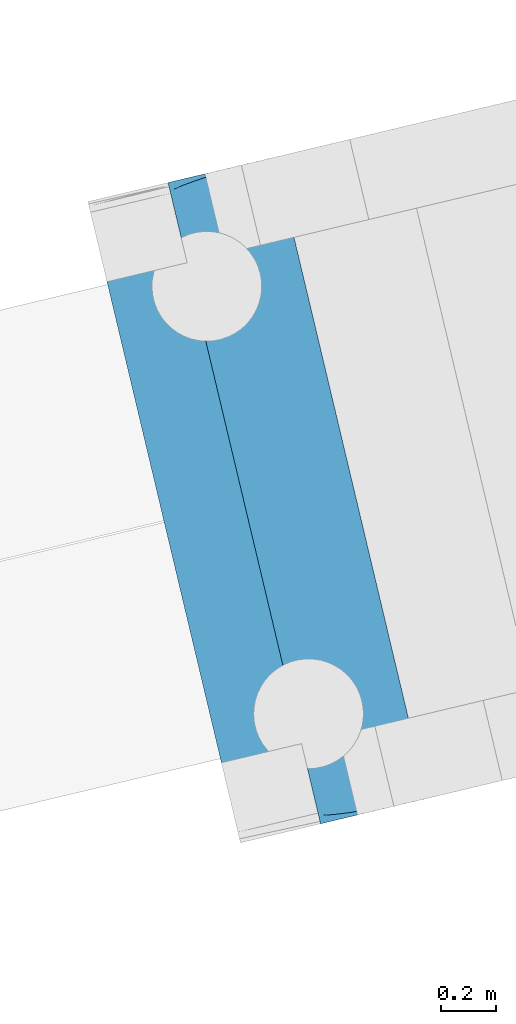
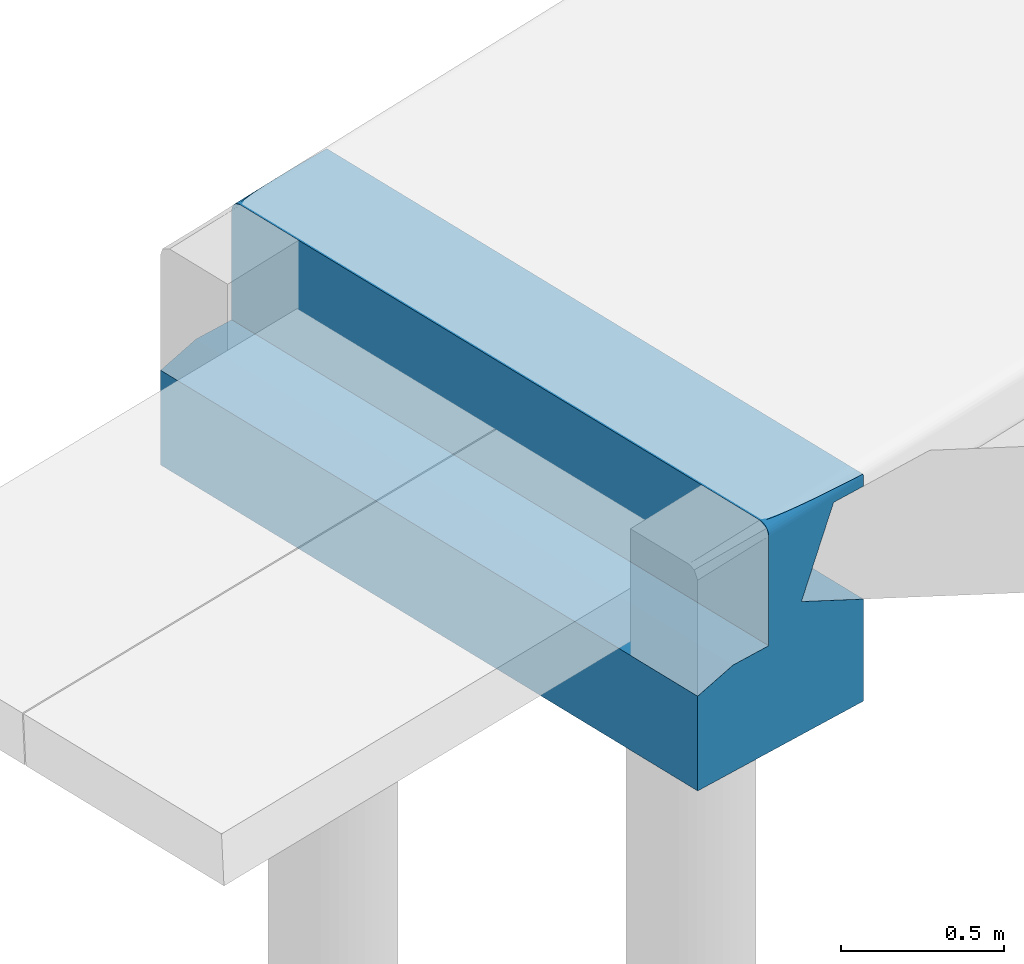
# One storey, part 5 of 15: 1 footing.
"""IFC2X3 building model written with IfcOpenShell, lengths in millimetres."""

from ifc_helpers import new_model, entity, si_unit, converted_unit, derived_unit, direction, frame, origin, place, context, subcontext, project, spatial, faceted_brep, material, element, save


model = new_model("IFC2X3")

# Units and contexts
model_context = context("Model", 3, precision=0.01, world=origin(), true_north=direction((6.12303176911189e-17, 1.0)))
body_context = subcontext(model_context, "Body", "Model", "MODEL_VIEW")
ifc_project = project(units=[si_unit("LENGTHUNIT", "METRE", prefix="MILLI"), si_unit("AREAUNIT", "SQUARE_METRE"), si_unit("VOLUMEUNIT", "CUBIC_METRE"), converted_unit("PLANEANGLEUNIT", "DEGREE", entity("IfcRatioMeasure", 0.0174532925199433), si_unit("PLANEANGLEUNIT", "RADIAN"), dimensions=[0, 0, 0, 0, 0, 0, 0]), si_unit("MASSUNIT", "GRAM", prefix="KILO"), derived_unit("MASSDENSITYUNIT", [(si_unit("MASSUNIT", "GRAM", prefix="KILO"), 1), (si_unit("LENGTHUNIT", "METRE"), -3)]), si_unit("TIMEUNIT", "SECOND"), si_unit("FREQUENCYUNIT", "HERTZ"), si_unit("THERMODYNAMICTEMPERATUREUNIT", "DEGREE_CELSIUS"), derived_unit("THERMALTRANSMITTANCEUNIT", [(si_unit("MASSUNIT", "GRAM", prefix="KILO"), 1), (si_unit("THERMODYNAMICTEMPERATUREUNIT", "KELVIN"), -1), (si_unit("TIMEUNIT", "SECOND"), -3)]), derived_unit("VOLUMETRICFLOWRATEUNIT", [(si_unit("LENGTHUNIT", "METRE"), 3), (si_unit("TIMEUNIT", "SECOND"), -1)]), si_unit("ELECTRICCURRENTUNIT", "AMPERE"), si_unit("ELECTRICVOLTAGEUNIT", "VOLT"), si_unit("POWERUNIT", "WATT"), si_unit("FORCEUNIT", "NEWTON", prefix="KILO"), si_unit("ILLUMINANCEUNIT", "LUX"), si_unit("LUMINOUSFLUXUNIT", "LUMEN"), si_unit("LUMINOUSINTENSITYUNIT", "CANDELA"), derived_unit("USERDEFINED", [(si_unit("MASSUNIT", "GRAM", prefix="KILO"), -1), (si_unit("LENGTHUNIT", "METRE"), -2), (si_unit("TIMEUNIT", "SECOND"), 3), (si_unit("LUMINOUSFLUXUNIT", "LUMEN"), 1)]), derived_unit("LINEARVELOCITYUNIT", [(si_unit("LENGTHUNIT", "METRE"), 1), (si_unit("TIMEUNIT", "SECOND"), -1)]), si_unit("PRESSUREUNIT", "PASCAL"), derived_unit("USERDEFINED", [(si_unit("LENGTHUNIT", "METRE"), -2), (si_unit("MASSUNIT", "GRAM", prefix="KILO"), 1), (si_unit("TIMEUNIT", "SECOND"), -2)])], contexts=[model_context])

# Site, building, storey
site_placement = place(None, origin())
site = spatial("IfcSite", under=ifc_project, at=site_placement, Name="Bruggen Achterburggracht Machinesloot", CompositionType="ELEMENT")
building_placement = place(site_placement, origin())
building = spatial("IfcBuilding", under=site, at=building_placement, Name="Bruggen Achterburggracht Machinesloot", CompositionType="ELEMENT")
storey_placement = place(building_placement, origin())
storey = spatial("IfcBuildingStorey", under=building, at=storey_placement, Name="00 begane grond", CompositionType="ELEMENT", Elevation=2.70716782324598e-13)

# Footing
ifc_material = material(Name="00_PBT_MAT_beton t.p.g.")
footing_placement = place(storey_placement, frame((-36755.207585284, -48669.7979108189, -855.0)))
element("IfcFooting", 1, at=footing_placement, inside=storey, material=ifc_material, Name="319-150_funderingsbalk tpv stootplaat:Brug 3_700x850", ObjectType="319-150_funderingsbalk tpv stootplaat:Brug 3_700x850", PredefinedType="NOTDEFINED", context=body_context, shape_type="Brep", body=[
    faceted_brep([(847.212533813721, 69.4193462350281, 400.0), (701.28365184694, 34.7096731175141, 400.0), (555.354769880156, 0.0, 355.0), (555.354769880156, 0.0, 0.0), (1236.35621905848, 161.978474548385, 0.0), (1236.35621905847, 161.978474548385, 382.414387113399), (981.609700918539, 101.386162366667, 498.999044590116), (1114.18241988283, 132.919027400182, 805.069230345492), (1236.35621905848, 161.978474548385, 805.069230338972), (1236.36587289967, 161.98077074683, 838.412026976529), (1022.05259742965, 111.005640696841, 823.0717664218), (847.212533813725, 69.4193462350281, 810.511909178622), (846.963075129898, 70.4681382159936, 819.758685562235), (846.228103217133, 73.5581595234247, 828.50700781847), (845.047251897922, 78.5227788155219, 836.285291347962), (843.484175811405, 85.0943747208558, 842.674242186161), (842.553654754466, 89.0065376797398, 845.001850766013), (842.088394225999, 90.9626191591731, 846.165655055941), (841.623133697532, 92.9187006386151, 847.329459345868), (841.06989822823, 95.2446526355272, 848.0471194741), (840.793280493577, 96.407628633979, 848.405949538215), (840.516662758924, 97.5706046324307, 848.764779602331), (840.397635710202, 98.0710266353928, 848.91918215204), (840.27860866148, 98.5714486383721, 849.073584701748), (840.159581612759, 99.0718706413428, 849.227987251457), (840.040554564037, 99.5722926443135, 849.382389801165), (839.564446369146, 101.573980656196, 850.0), (299.505866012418, 2372.12676175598, 850.0), (299.029151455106, 2374.13099907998, 849.381603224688), (298.909972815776, 2374.63205841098, 849.22700403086), (298.79079417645, 2375.13311774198, 849.072404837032), (298.67161553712, 2375.63417707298, 848.917805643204), (298.552436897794, 2376.13523640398, 848.763206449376), (298.276122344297, 2377.29693774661, 848.404769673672), (297.9998077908, 2378.45863908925, 848.046332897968), (297.447178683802, 2380.78204177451, 847.329459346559), (296.981918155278, 2382.73812325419, 846.165655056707), (296.516657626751, 2384.69420473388, 845.001850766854), (295.5861365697, 2388.60636769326, 842.674242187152), (294.023060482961, 2395.17796359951, 836.285291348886), (292.842209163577, 2400.14258289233, 828.507007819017), (292.107237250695, 2403.23260420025, 819.758685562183), (291.857763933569, 2404.28145770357, 810.511909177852), (291.857763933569, 2404.28145770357, 400.0), (681.001449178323, 2496.84058601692, 0.0), (0.0, 2334.86211146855, 0.0), (0.0, 2334.86211146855, 355.0), (145.928881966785, 2369.57178458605, 400.0), (466.683613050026, 2445.86437119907, 823.077976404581), (681.001449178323, 2496.84058601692, 838.482633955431), (681.001449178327, 2496.84058601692, 805.057691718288), (558.822651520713, 2467.77994996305, 805.057692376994), (426.254931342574, 2436.24827390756, 498.999043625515), (681.001449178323, 2496.84058601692, 382.414387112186), (889.241565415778, 102.617995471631, 850.0), (908.917186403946, 104.835735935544, 850.0), (866.842287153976, 101.239370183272, 850.0), (847.2154841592, 101.267284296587, 850.0), (381.46724926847, 2407.31774913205, 850.0), (362.90018423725, 2400.43933869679, 850.0), (976.68019571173, 114.001803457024, 850.0), (1032.58797097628, 123.330655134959, 850.0), (1095.25144507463, 134.862376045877, 850.0), (1163.47727673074, 148.377360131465, 850.0), (1235.96619707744, 163.618232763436, 850.0), (681.391485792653, 2495.20076627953, 850.0), (609.803422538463, 2476.17244601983, 850.0), (542.798969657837, 2457.52245420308, 850.0), (481.654136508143, 2439.60595474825, 850.0), (427.533343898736, 2422.7641432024, 850.0), (928.592807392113, 107.053476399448, 850.0), (344.33311920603, 2393.56092826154, 850.0), (330.585621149, 2387.65829446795, 850.0), (874.308713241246, 101.698911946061, 850.0), (848.735531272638, 101.206352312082, 850.0), (850.255578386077, 101.145420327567, 850.0), (853.295672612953, 101.023556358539, 850.0), (856.335766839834, 100.901692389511, 850.0), (1236.25700729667, 162.395587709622, 844.338229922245), (1166.91803451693, 453.915439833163, 805.070673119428), (1166.91756429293, 453.917416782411, 382.417272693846), (750.440133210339, 2204.90152073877, 382.41727269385), (750.43966299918, 2204.90349763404, 805.059134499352), (681.099477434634, 2496.42844863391, 844.302959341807), (859.37586106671, 100.779828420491, 850.0), (1048.02980457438, 118.170405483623, 833.691085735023), (306.207842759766, 2375.85003082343, 850.0), (307.53662780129, 2376.5882345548, 850.0), (308.865412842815, 2377.32643828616, 850.0), (311.522982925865, 2378.80284574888, 850.0), (314.180553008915, 2380.27925321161, 850.0), (316.838123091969, 2381.75566067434, 850.0), (493.169129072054, 2451.18194012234, 833.67740234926), (323.711872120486, 2384.70697757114, 850.0), (495.697292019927, 2144.3077527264, 499.000486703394), (628.264331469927, 2175.84229201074, 805.059134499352), (912.173673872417, 393.32806001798, 499.000486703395), (1044.74707327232, 424.858061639, 805.070673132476)], [[[0, 1, 2, 3, 4, 5, 6, 7, 8, 9, 10, 11]], [[11, 12, 13, 14, 15, 16, 17, 18, 19, 20, 21, 22, 23, 24, 25, 26, 27, 28, 29, 30, 31, 32, 33, 34, 35, 36, 37, 38, 39, 40, 41, 42, 43, 0]], [[44, 45, 46, 47, 43, 42, 48, 49, 50, 51, 52, 53]], [[26, 54, 55]], [[56, 26, 57]], [[27, 58, 59]], [[60, 61, 62, 63, 64, 65, 66, 67, 68, 69, 58, 27, 26, 70]], [[27, 71, 72]], [[26, 56, 73]], [[56, 57, 74, 75, 76, 77]], [[64, 78, 9]], [[9, 79, 64]], [[65, 64, 79, 80, 5, 4, 44, 53, 81, 82, 50, 49, 83]], [[8, 79, 9]], [[45, 44, 4, 3]], [[45, 3, 2, 46]], [[47, 46, 2, 1]], [[43, 47, 1, 0]], [[16, 15, 70]], [[56, 84, 19, 73]], [[14, 60, 15]], [[20, 19, 84, 77, 76, 75, 74, 57, 26, 25, 24, 23, 22, 21]], [[15, 60, 70]], [[18, 73, 19]], [[55, 16, 70]], [[54, 73, 18]], [[18, 17, 54]], [[54, 17, 55]], [[14, 61, 60]], [[85, 64, 63]], [[85, 78, 64]], [[12, 10, 85]], [[13, 62, 14]], [[61, 14, 62]], [[63, 62, 13]], [[13, 85, 63]], [[16, 55, 17]], [[11, 10, 12]], [[10, 9, 78]], [[78, 85, 10]], [[13, 12, 85]], [[41, 48, 42]], [[29, 28, 27, 86, 87, 88, 89, 90, 91, 34, 33, 32, 31, 30]], [[40, 66, 92]], [[67, 40, 39]], [[67, 66, 40]], [[41, 92, 48]], [[83, 92, 65]], [[65, 92, 66]], [[39, 38, 69]], [[59, 36, 71]], [[34, 91, 93, 72]], [[36, 35, 71]], [[34, 72, 35]], [[69, 68, 39]], [[58, 37, 59]], [[58, 38, 37]], [[72, 71, 35]], [[69, 38, 58]], [[36, 59, 37]], [[39, 68, 67]], [[83, 49, 48]], [[48, 92, 83]], [[92, 41, 40]], [[51, 94, 52]], [[94, 51, 95]], [[81, 94, 95, 82]], [[52, 94, 81, 53]], [[82, 95, 51]], [[51, 50, 82]], [[6, 96, 97]], [[97, 7, 6]], [[79, 97, 96, 80]], [[80, 96, 6]], [[6, 5, 80]], [[7, 97, 79, 8]], [[26, 55, 70]], [[26, 73, 54]], [[56, 77, 84]], [[27, 72, 93]], [[93, 91, 90]], [[93, 90, 89, 88, 87, 86]], [[27, 59, 71]], [[93, 86, 27]]]),
])

save(model, "model.ifc")
